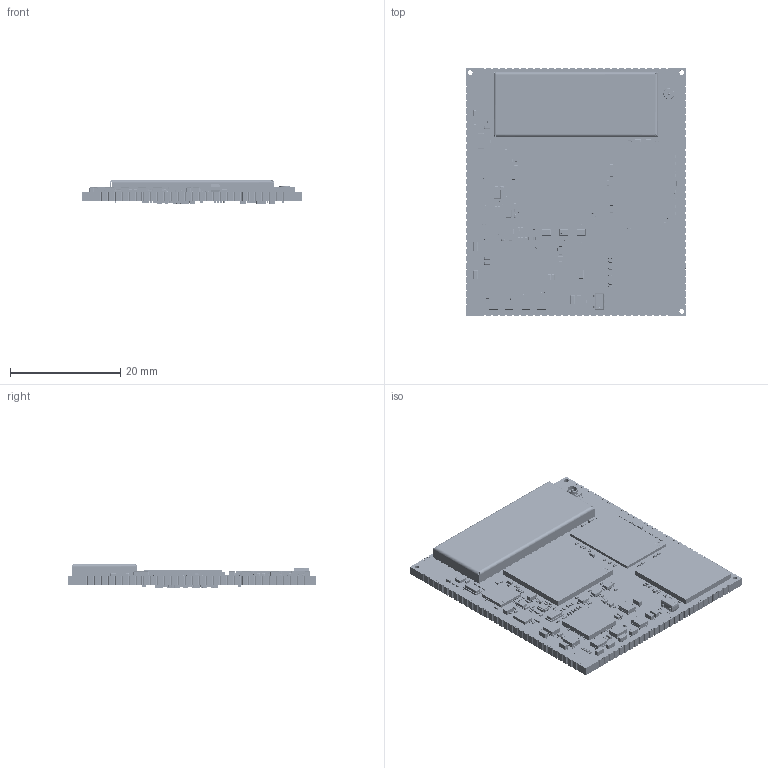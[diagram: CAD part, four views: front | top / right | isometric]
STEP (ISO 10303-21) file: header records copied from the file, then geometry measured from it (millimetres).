
FILE_DESCRIPTION(('Open CASCADE Model'),'2;1');
FILE_NAME('Open CASCADE Shape Model','2021-07-02T10:14:06',('Author'),( 'Open CASCADE'),'Open CASCADE STEP processor 6.8','Open CASCADE 6.8' ,'Unknown');
FILE_SCHEMA(('AUTOMOTIVE_DESIGN { 1 0 10303 214 1 1 1 1 }'));
Length unit declared in the file: millimetre
Products named in the file (559): PCB; Board; R67; RESC0603X33; 956386368; Extruded; R62; R87; R86; R57; 956375896; U7; SOT95P280X145-5L50; 956400240; R107; 956383104; R106; L20; SRN2510F; 956404048; TP2; 1154750480; Cylinder; TP1; C197; CAPC1005X55L25; 956376440; C196; 105936848; 956385824; C195; 105936976; C191; CAPC0603X33; 956379568; L19; L18; L17; L16; 739801888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
Assembly tree (3498 placements, depth 4):
  PCB
    Board
    R67
      RESC0603X33
      956386368  x2
        Extruded
    R62
      RESC0603X33
      956386368  x2
        Extruded
    R87
      RESC0603X33
      956386368  x2
        Extruded
    R86
      RESC0603X33
      956386368  x2
        Extruded
    R57
      RESC0603X33
      956375896  x2
        Extruded
    U7
      SOT95P280X145-5L50
      956400240  x5
        Extruded
    R107
      RESC0603X33
      956383104  x2
        Extruded
    R106
      RESC0603X33
      956383104  x2
        Extruded
    L20
      SRN2510F
      956404048  x2
        Extruded
    TP2
      1154750480
        Cylinder
    TP1
      1154750480
        Cylinder
    C197
      CAPC1005X55L25
      956376440  x2
        Extruded
    C196
      105936848
      956385824  x2
        Extruded
    C195
      105936976
      956385824  x2
        Extruded
    C191
      CAPC0603X33
      956379568  x2
        Extruded
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Bounding box: 40 x 45 x 4.36 mm (x, y, z)
Volume: 3602.7 mm3; surface area: 10389.9 mm2
Topology: 4878 solids, 4878 shells, 48871 faces, 115742 edges, 72393 vertices
Faces by surface type: plane 34696, cylinder 9705, sphere 4268, bspline 146, torus 38, revolution 10, cone 8
Full cylindrical faces by diameter (mm): 0.025 x1, 0.25 x153, 0.3 x662, 0.35 x1, 0.4 x673, 0.6 x3, 0.8 x1, 0.85 x3, 1 x4
Entity records: 257849 total; most frequent: CARTESIAN_POINT 46657, DIRECTION 36151, ORIENTED_EDGE 30192, EDGE_CURVE 15096, AXIS2_PLACEMENT_3D 13357, VERTEX_POINT 11351, LINE 9431, VECTOR 9431
